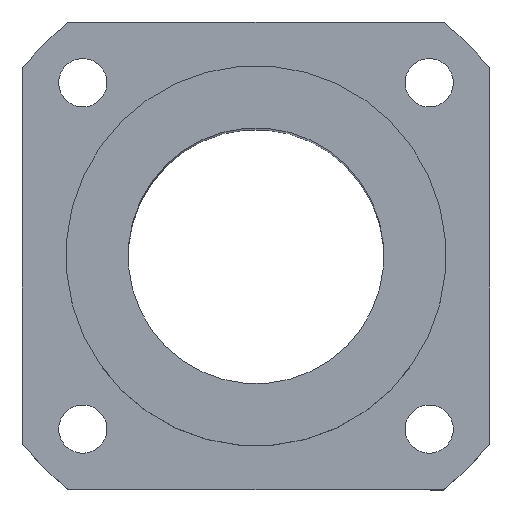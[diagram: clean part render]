
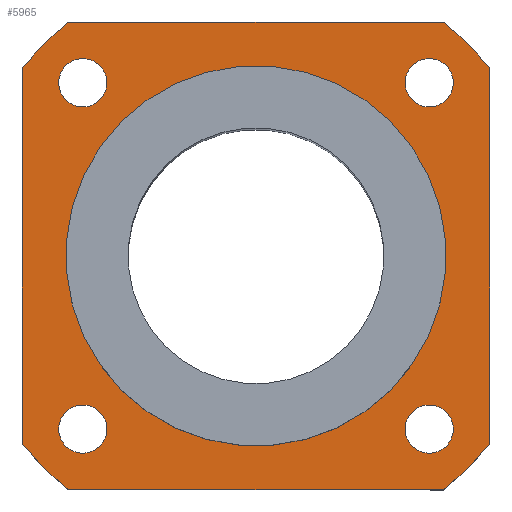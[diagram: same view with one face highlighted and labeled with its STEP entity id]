
A CAD part, top view. The second image highlights one B-rep face of the part: STEP entity #5965.
In plain terms, the highlighted planar face has unit normal (0, 0, 1).
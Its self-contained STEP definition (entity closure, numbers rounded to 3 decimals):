
#111=CIRCLE('',#6334,41.);
#112=CIRCLE('',#6336,41.);
#113=CIRCLE('',#6338,41.);
#114=CIRCLE('',#6340,41.);
#115=CIRCLE('',#6342,3.3);
#116=CIRCLE('',#6343,3.3);
#117=CIRCLE('',#6344,3.3);
#118=CIRCLE('',#6345,3.3);
#119=CIRCLE('',#6346,26.);
#545=ORIENTED_EDGE('',*,*,#2269,.F.);
#546=ORIENTED_EDGE('',*,*,#2270,.F.);
#547=ORIENTED_EDGE('',*,*,#2271,.F.);
#548=ORIENTED_EDGE('',*,*,#2272,.F.);
#549=ORIENTED_EDGE('',*,*,#2273,.T.);
#550=ORIENTED_EDGE('',*,*,#2261,.T.);
#551=ORIENTED_EDGE('',*,*,#2274,.T.);
#552=ORIENTED_EDGE('',*,*,#2257,.T.);
#553=ORIENTED_EDGE('',*,*,#2275,.T.);
#554=ORIENTED_EDGE('',*,*,#2267,.T.);
#555=ORIENTED_EDGE('',*,*,#2276,.T.);
#556=ORIENTED_EDGE('',*,*,#2264,.T.);
#557=ORIENTED_EDGE('',*,*,#2277,.T.);
#2257=EDGE_CURVE('',#3121,#3122,#111,.T.);
#2261=EDGE_CURVE('',#3124,#3123,#112,.T.);
#2264=EDGE_CURVE('',#3126,#3125,#113,.T.);
#2267=EDGE_CURVE('',#3128,#3127,#114,.T.);
#2269=EDGE_CURVE('',#3129,#3129,#115,.T.);
#2270=EDGE_CURVE('',#3130,#3130,#116,.T.);
#2271=EDGE_CURVE('',#3131,#3131,#117,.T.);
#2272=EDGE_CURVE('',#3132,#3132,#118,.T.);
#2273=EDGE_CURVE('',#3133,#3133,#119,.F.);
#2274=EDGE_CURVE('',#3123,#3121,#3650,.T.);
#2275=EDGE_CURVE('',#3122,#3128,#3651,.T.);
#2276=EDGE_CURVE('',#3127,#3126,#3652,.T.);
#2277=EDGE_CURVE('',#3125,#3124,#3653,.T.);
#3121=VERTEX_POINT('',#9441);
#3122=VERTEX_POINT('',#9442);
#3123=VERTEX_POINT('',#9447);
#3124=VERTEX_POINT('',#9449);
#3125=VERTEX_POINT('',#9453);
#3126=VERTEX_POINT('',#9455);
#3127=VERTEX_POINT('',#9459);
#3128=VERTEX_POINT('',#9461);
#3129=VERTEX_POINT('',#9465);
#3130=VERTEX_POINT('',#9467);
#3131=VERTEX_POINT('',#9469);
#3132=VERTEX_POINT('',#9471);
#3133=VERTEX_POINT('',#9473);
#3650=LINE('',#9474,#4354);
#3651=LINE('',#9475,#4355);
#3652=LINE('',#9476,#4356);
#3653=LINE('',#9477,#4357);
#4354=VECTOR('',#6908,1000.);
#4355=VECTOR('',#6909,1000.);
#4356=VECTOR('',#6910,1000.);
#4357=VECTOR('',#6911,1000.);
#4893=EDGE_LOOP('',(#545));
#4894=EDGE_LOOP('',(#546));
#4895=EDGE_LOOP('',(#547));
#4896=EDGE_LOOP('',(#548));
#4897=EDGE_LOOP('',(#549));
#4898=EDGE_LOOP('',(#550,#551,#552,#553,#554,#555,#556,#557));
#5317=FACE_BOUND('',#4893,.T.);
#5318=FACE_BOUND('',#4894,.T.);
#5319=FACE_BOUND('',#4895,.T.);
#5320=FACE_BOUND('',#4896,.T.);
#5321=FACE_BOUND('',#4897,.T.);
#5322=FACE_BOUND('',#4898,.T.);
#5693=PLANE('',#6341);
#5965=ADVANCED_FACE('',(#5317,#5318,#5319,#5320,#5321,#5322),#5693,.T.);
#6334=AXIS2_PLACEMENT_3D('',#9440,#6874,#6875);
#6336=AXIS2_PLACEMENT_3D('',#9448,#6881,#6882);
#6338=AXIS2_PLACEMENT_3D('',#9454,#6887,#6888);
#6340=AXIS2_PLACEMENT_3D('',#9460,#6893,#6894);
#6341=AXIS2_PLACEMENT_3D('',#9463,#6896,#6897);
#6342=AXIS2_PLACEMENT_3D('',#9464,#6898,#6899);
#6343=AXIS2_PLACEMENT_3D('',#9466,#6900,#6901);
#6344=AXIS2_PLACEMENT_3D('',#9468,#6902,#6903);
#6345=AXIS2_PLACEMENT_3D('',#9470,#6904,#6905);
#6346=AXIS2_PLACEMENT_3D('',#9472,#6906,#6907);
#6874=DIRECTION('',(0.,0.,1.));
#6875=DIRECTION('',(0.707,-0.707,0.));
#6881=DIRECTION('',(0.,0.,1.));
#6882=DIRECTION('',(0.707,-0.707,0.));
#6887=DIRECTION('',(0.,0.,1.));
#6888=DIRECTION('',(0.707,-0.707,0.));
#6893=DIRECTION('',(0.,0.,1.));
#6894=DIRECTION('',(0.707,-0.707,0.));
#6896=DIRECTION('',(0.,0.,1.));
#6897=DIRECTION('',(0.707,-0.707,0.));
#6898=DIRECTION('',(0.,0.,1.));
#6899=DIRECTION('',(0.707,-0.707,0.));
#6900=DIRECTION('',(0.,0.,1.));
#6901=DIRECTION('',(0.707,-0.707,0.));
#6902=DIRECTION('',(0.,0.,1.));
#6903=DIRECTION('',(0.707,-0.707,0.));
#6904=DIRECTION('',(0.,0.,1.));
#6905=DIRECTION('',(0.707,-0.707,0.));
#6906=DIRECTION('',(0.,0.,1.));
#6907=DIRECTION('',(0.707,-0.707,0.));
#6908=DIRECTION('',(0.,-1.,0.));
#6909=DIRECTION('',(1.,0.,0.));
#6910=DIRECTION('',(0.,1.,0.));
#6911=DIRECTION('',(-1.,0.,0.));
#9440=CARTESIAN_POINT('',(0.,0.,0.));
#9441=CARTESIAN_POINT('',(-32.,-25.632,0.));
#9442=CARTESIAN_POINT('',(-25.632,-32.,0.));
#9447=CARTESIAN_POINT('',(-32.,25.632,0.));
#9448=CARTESIAN_POINT('',(0.,0.,0.));
#9449=CARTESIAN_POINT('',(-25.632,32.,0.));
#9453=CARTESIAN_POINT('',(25.632,32.,0.));
#9454=CARTESIAN_POINT('',(0.,0.,0.));
#9455=CARTESIAN_POINT('',(32.,25.632,0.));
#9459=CARTESIAN_POINT('',(32.,-25.632,0.));
#9460=CARTESIAN_POINT('',(0.,0.,0.));
#9461=CARTESIAN_POINT('',(25.632,-32.,0.));
#9463=CARTESIAN_POINT('',(0.,0.,0.));
#9464=CARTESIAN_POINT('',(23.688,23.688,0.));
#9465=CARTESIAN_POINT('',(26.022,21.355,0.));
#9466=CARTESIAN_POINT('',(-23.688,23.688,0.));
#9467=CARTESIAN_POINT('',(-21.355,21.355,0.));
#9468=CARTESIAN_POINT('',(-23.688,-23.688,0.));
#9469=CARTESIAN_POINT('',(-21.355,-26.022,0.));
#9470=CARTESIAN_POINT('',(23.688,-23.688,0.));
#9471=CARTESIAN_POINT('',(26.022,-26.022,0.));
#9472=CARTESIAN_POINT('',(0.,0.,0.));
#9473=CARTESIAN_POINT('',(18.385,-18.385,0.));
#9474=CARTESIAN_POINT('',(-32.,0.,0.));
#9475=CARTESIAN_POINT('',(0.,-32.,0.));
#9476=CARTESIAN_POINT('',(32.,0.,0.));
#9477=CARTESIAN_POINT('',(0.,32.,0.));
